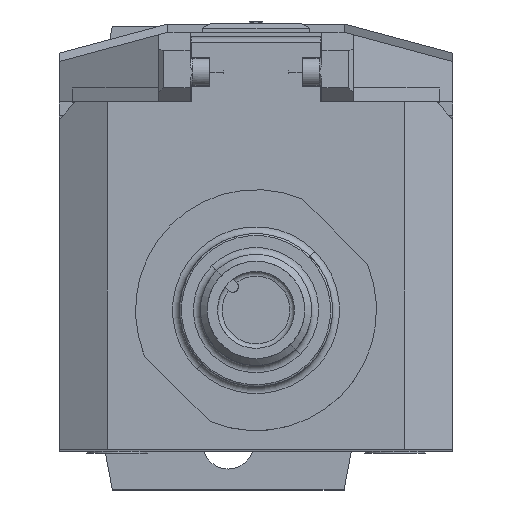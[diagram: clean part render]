
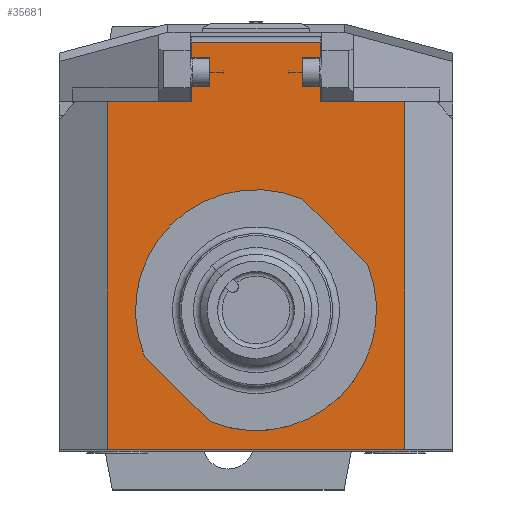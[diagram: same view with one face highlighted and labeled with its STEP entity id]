
A CAD part, top view. The second image highlights one B-rep face of the part: STEP entity #35681.
In plain terms, the highlighted planar face has unit normal (0, 0, 1) as drawn and (0, 0, -1) by its records, which use the part's own axes.
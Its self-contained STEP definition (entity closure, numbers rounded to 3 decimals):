
#5163=DIRECTION('',(1.,0.,0.));
#5164=VECTOR('',#5163,9.054);
#5165=CARTESIAN_POINT('',(-16.054,37.5,-122.));
#5166=LINE('',#5165,#5164);
#5184=DIRECTION('',(1.,0.,0.));
#5185=VECTOR('',#5184,9.054);
#5186=CARTESIAN_POINT('',(7.,37.5,-122.));
#5187=LINE('',#5186,#5185);
#10095=DIRECTION('',(-1.,0.,0.));
#10096=VECTOR('',#10095,2.);
#10097=CARTESIAN_POINT('',(7.,42.25,-122.));
#10098=LINE('',#10097,#10096);
#10109=DIRECTION('',(0.,1.,0.));
#10110=VECTOR('',#10109,1.681);
#10111=CARTESIAN_POINT('',(7.,42.25,-122.));
#10112=LINE('',#10111,#10110);
#10116=DIRECTION('',(1.,0.,0.));
#10117=VECTOR('',#10116,2.);
#10118=CARTESIAN_POINT('',(-7.,42.25,-122.));
#10119=LINE('',#10118,#10117);
#10123=DIRECTION('',(0.,-1.,0.));
#10124=VECTOR('',#10123,3.1);
#10125=CARTESIAN_POINT('',(-5.,42.25,-122.));
#10126=LINE('',#10125,#10124);
#10130=DIRECTION('',(0.,-1.,0.));
#10131=VECTOR('',#10130,37.5);
#10132=CARTESIAN_POINT('',(-16.054,37.5,-122.));
#10133=LINE('',#10132,#10131);
#10137=DIRECTION('',(1.,0.,0.));
#10138=VECTOR('',#10137,32.108);
#10139=CARTESIAN_POINT('',(-16.054,0.,-122.));
#10140=LINE('',#10139,#10138);
#10144=DIRECTION('',(0.,1.,0.));
#10145=VECTOR('',#10144,1.65);
#10146=CARTESIAN_POINT('',(7.,37.5,-122.));
#10147=LINE('',#10146,#10145);
#10151=DIRECTION('',(-1.,0.,0.));
#10152=VECTOR('',#10151,2.);
#10153=CARTESIAN_POINT('',(7.,39.15,-122.));
#10154=LINE('',#10153,#10152);
#10158=CARTESIAN_POINT('',(0.,15.,-122.));
#10159=DIRECTION('',(0.,0.,-1.));
#10160=DIRECTION('',(-0.707,0.707,0.));
#10161=AXIS2_PLACEMENT_3D('',#10158,#10159,#10160);
#10166=CARTESIAN_POINT('',(0.,15.,-122.));
#10167=DIRECTION('',(0.,0.,-1.));
#10168=DIRECTION('',(0.707,-0.707,0.));
#10169=AXIS2_PLACEMENT_3D('',#10166,#10167,#10168);
#10174=DIRECTION('',(0.,-1.,0.));
#10175=VECTOR('',#10174,3.1);
#10176=CARTESIAN_POINT('',(5.,42.25,-122.));
#10177=LINE('',#10176,#10175);
#10250=DIRECTION('',(1.,0.,0.));
#10251=VECTOR('',#10250,14.);
#10252=CARTESIAN_POINT('',(-7.,43.931,-122.));
#10253=LINE('',#10252,#10251);
#10295=DIRECTION('',(0.,1.,0.));
#10296=VECTOR('',#10295,1.681);
#10297=CARTESIAN_POINT('',(-7.,42.25,-122.));
#10298=LINE('',#10297,#10296);
#10324=DIRECTION('',(0.,1.,0.));
#10325=VECTOR('',#10324,1.65);
#10326=CARTESIAN_POINT('',(-7.,37.5,-122.));
#10327=LINE('',#10326,#10325);
#10476=DIRECTION('',(1.,0.,0.));
#10477=VECTOR('',#10476,2.);
#10478=CARTESIAN_POINT('',(-7.,39.15,-122.));
#10479=LINE('',#10478,#10477);
#10751=DIRECTION('',(0.,-1.,0.));
#10752=VECTOR('',#10751,37.5);
#10753=CARTESIAN_POINT('',(16.054,37.5,-122.));
#10754=LINE('',#10753,#10752);
#24016=CARTESIAN_POINT('',(-16.054,37.5,-122.));
#24017=VERTEX_POINT('',#24016);
#24018=CARTESIAN_POINT('',(-7.,37.5,-122.));
#24019=VERTEX_POINT('',#24018);
#24024=CARTESIAN_POINT('',(7.,37.5,-122.));
#24025=VERTEX_POINT('',#24024);
#24026=CARTESIAN_POINT('',(16.054,37.5,-122.));
#24027=VERTEX_POINT('',#24026);
#24086=CARTESIAN_POINT('',(16.054,0.,-122.));
#24087=VERTEX_POINT('',#24086);
#24090=CARTESIAN_POINT('',(5.,42.25,-122.));
#24091=CARTESIAN_POINT('',(5.,39.15,-122.));
#24092=VERTEX_POINT('',#24090);
#24093=VERTEX_POINT('',#24091);
#24094=CARTESIAN_POINT('',(7.,42.25,-122.));
#24095=VERTEX_POINT('',#24094);
#24096=CARTESIAN_POINT('',(7.,43.931,-122.));
#24097=VERTEX_POINT('',#24096);
#24098=CARTESIAN_POINT('',(-7.,43.931,-122.));
#24099=VERTEX_POINT('',#24098);
#24100=CARTESIAN_POINT('',(-7.,42.25,-122.));
#24101=VERTEX_POINT('',#24100);
#24102=CARTESIAN_POINT('',(-5.,42.25,-122.));
#24103=VERTEX_POINT('',#24102);
#24104=CARTESIAN_POINT('',(-5.,39.15,-122.));
#24105=VERTEX_POINT('',#24104);
#24106=CARTESIAN_POINT('',(-7.,39.15,-122.));
#24107=VERTEX_POINT('',#24106);
#24108=CARTESIAN_POINT('',(-16.054,0.,-122.));
#24109=VERTEX_POINT('',#24108);
#24110=CARTESIAN_POINT('',(7.,39.15,-122.));
#24111=VERTEX_POINT('',#24110);
#24112=CARTESIAN_POINT('',(-7.071,22.071,-122.));
#24113=CARTESIAN_POINT('',(7.071,7.929,-122.));
#24114=VERTEX_POINT('',#24112);
#24115=VERTEX_POINT('',#24113);
#35644=CARTESIAN_POINT('',(0.,21.,-122.));
#35645=DIRECTION('',(0.,0.,-1.));
#35646=DIRECTION('',(-1.,0.,0.));
#35647=AXIS2_PLACEMENT_3D('',#35644,#35645,#35646);
#35648=PLANE('',#35647);
#35650=ORIENTED_EDGE('',*,*,#35649,.F.);
#35651=ORIENTED_EDGE('',*,*,#35636,.F.);
#35652=ORIENTED_EDGE('',*,*,#35493,.T.);
#35654=ORIENTED_EDGE('',*,*,#35653,.F.);
#35656=ORIENTED_EDGE('',*,*,#35655,.F.);
#35658=ORIENTED_EDGE('',*,*,#35657,.T.);
#35660=ORIENTED_EDGE('',*,*,#35659,.T.);
#35662=ORIENTED_EDGE('',*,*,#35661,.F.);
#35664=ORIENTED_EDGE('',*,*,#35663,.F.);
#35665=ORIENTED_EDGE('',*,*,#31672,.F.);
#35666=ORIENTED_EDGE('',*,*,#29792,.T.);
#35667=ORIENTED_EDGE('',*,*,#29712,.T.);
#35669=ORIENTED_EDGE('',*,*,#35668,.F.);
#35670=ORIENTED_EDGE('',*,*,#31680,.F.);
#35671=ORIENTED_EDGE('',*,*,#35486,.T.);
#35672=ORIENTED_EDGE('',*,*,#35605,.T.);
#35673=EDGE_LOOP('',(#35650,#35651,#35652,#35654,#35656,#35658,#35660,#35662,
#35664,#35665,#35666,#35667,#35669,#35670,#35671,#35672));
#35674=FACE_OUTER_BOUND('',#35673,.F.);
#35676=ORIENTED_EDGE('',*,*,#35675,.T.);
#35678=ORIENTED_EDGE('',*,*,#35677,.T.);
#35679=EDGE_LOOP('',(#35676,#35678));
#35680=FACE_BOUND('',#35679,.F.);
#10162=CIRCLE('',#10161,10.);
#10170=CIRCLE('',#10169,10.);
#29712=EDGE_CURVE('',#24109,#24087,#10140,.T.);
#29792=EDGE_CURVE('',#24017,#24109,#10133,.T.);
#31672=EDGE_CURVE('',#24017,#24019,#5166,.T.);
#31680=EDGE_CURVE('',#24025,#24027,#5187,.T.);
#35486=EDGE_CURVE('',#24025,#24111,#10147,.T.);
#35493=EDGE_CURVE('',#24095,#24097,#10112,.T.);
#35605=EDGE_CURVE('',#24111,#24093,#10154,.T.);
#35636=EDGE_CURVE('',#24095,#24092,#10098,.T.);
#35649=EDGE_CURVE('',#24092,#24093,#10177,.T.);
#35653=EDGE_CURVE('',#24099,#24097,#10253,.T.);
#35655=EDGE_CURVE('',#24101,#24099,#10298,.T.);
#35657=EDGE_CURVE('',#24101,#24103,#10119,.T.);
#35659=EDGE_CURVE('',#24103,#24105,#10126,.T.);
#35661=EDGE_CURVE('',#24107,#24105,#10479,.T.);
#35663=EDGE_CURVE('',#24019,#24107,#10327,.T.);
#35668=EDGE_CURVE('',#24027,#24087,#10754,.T.);
#35675=EDGE_CURVE('',#24114,#24115,#10162,.T.);
#35677=EDGE_CURVE('',#24115,#24114,#10170,.T.);
#35681=ADVANCED_FACE('',(#35674,#35680),#35648,.T.);
